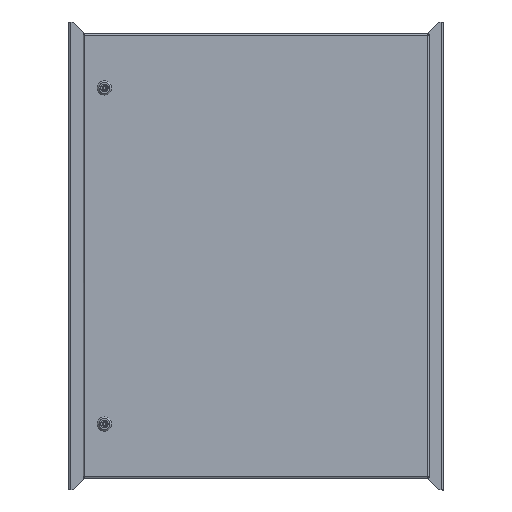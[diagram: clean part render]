
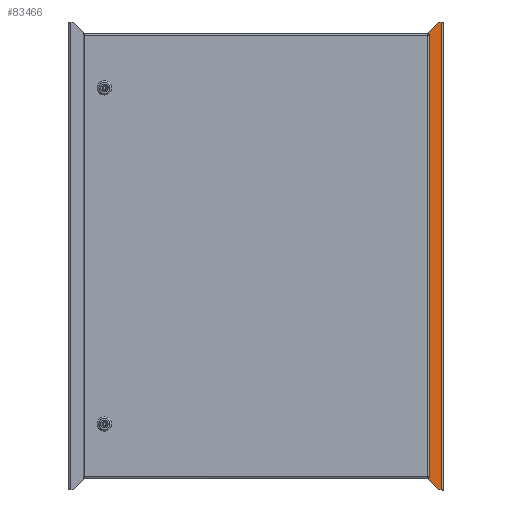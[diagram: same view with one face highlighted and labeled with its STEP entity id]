
A CAD part, top view. The second image highlights one B-rep face of the part: STEP entity #83466.
In plain terms, the highlighted planar face has unit normal (0, 0, 1).
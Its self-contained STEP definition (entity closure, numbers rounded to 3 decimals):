
#580 = DIRECTION ( 'NONE',  ( -1., 0., 0. ) ) ;
#1685 = CARTESIAN_POINT ( 'NONE',  ( 392.85, -495., -20.25 ) ) ;
#3238 = VERTEX_POINT ( 'NONE', #92371 ) ;
#6111 = CARTESIAN_POINT ( 'NONE',  ( 343.85, -460., -20.25 ) ) ;
#6783 = CARTESIAN_POINT ( 'NONE',  ( 381.37, -493.43, -20.25 ) ) ;
#7099 = LINE ( 'NONE', #103852, #95479 ) ;
#7160 = VERTEX_POINT ( 'NONE', #43723 ) ;
#7206 = VECTOR ( 'NONE', #19274, 1000. ) ;
#8638 = EDGE_CURVE ( 'NONE', #98851, #64447, #38806, .T. ) ;
#9064 = DIRECTION ( 'NONE',  ( 1., 0., 0. ) ) ;
#9477 = ORIENTED_EDGE ( 'NONE', *, *, #8638, .T. ) ;
#12365 = LINE ( 'NONE', #56563, #41065 ) ;
#13199 = DIRECTION ( 'NONE',  ( 1., 0., 0. ) ) ;
#15098 = CARTESIAN_POINT ( 'NONE',  ( 347.692, 465., -20.25 ) ) ;
#18391 = EDGE_CURVE ( 'NONE', #79956, #95455, #70865, .T. ) ;
#19108 = EDGE_CURVE ( 'NONE', #79956, #72816, #100880, .T. ) ;
#19274 = DIRECTION ( 'NONE',  ( -0.686, -0.728, 0. ) ) ;
#20293 = CARTESIAN_POINT ( 'NONE',  ( 343.85, 495., -20.25 ) ) ;
#20385 = VERTEX_POINT ( 'NONE', #41773 ) ;
#20511 = AXIS2_PLACEMENT_3D ( 'NONE', #57986, #58554, #9064 ) ;
#20861 = LINE ( 'NONE', #20293, #45418 ) ;
#21797 = EDGE_LOOP ( 'NONE', ( #33484, #77373, #81554, #101285, #84135, #9477, #88287, #62055, #54980, #97532, #57984, #39528 ) ) ;
#22344 = AXIS2_PLACEMENT_3D ( 'NONE', #52197, #35509, #26919 ) ;
#22494 = EDGE_CURVE ( 'NONE', #7160, #42019, #101547, .T. ) ;
#24789 = EDGE_CURVE ( 'NONE', #64447, #53356, #95960, .T. ) ;
#26919 = DIRECTION ( 'NONE',  ( 1., 0., 0. ) ) ;
#27214 = CARTESIAN_POINT ( 'NONE',  ( 351.33, -461.57, -20.25 ) ) ;
#28998 = CARTESIAN_POINT ( 'NONE',  ( -106.588, 24.101, -20.25 ) ) ;
#29129 = EDGE_CURVE ( 'NONE', #42019, #72816, #69876, .T. ) ;
#31672 = CARTESIAN_POINT ( 'NONE',  ( 339.85, 460., -20.25 ) ) ;
#33484 = ORIENTED_EDGE ( 'NONE', *, *, #18391, .F. ) ;
#34135 = VERTEX_POINT ( 'NONE', #6111 ) ;
#34535 = EDGE_CURVE ( 'NONE', #52773, #34135, #7099, .T. ) ;
#35509 = DIRECTION ( 'NONE',  ( 0., 0., 1. ) ) ;
#36420 = CARTESIAN_POINT ( 'NONE',  ( 349.85, 460., -20.25 ) ) ;
#38806 = CIRCLE ( 'NONE', #53534, 5. ) ;
#39528 = ORIENTED_EDGE ( 'NONE', *, *, #90119, .T. ) ;
#40707 = AXIS2_PLACEMENT_3D ( 'NONE', #15098, #107185, #91563 ) ;
#41065 = VECTOR ( 'NONE', #49042, 1000. ) ;
#41773 = CARTESIAN_POINT ( 'NONE',  ( 347.692, 460., -20.25 ) ) ;
#42019 = VERTEX_POINT ( 'NONE', #47443 ) ;
#42077 = AXIS2_PLACEMENT_3D ( 'NONE', #91615, #67045, #13199 ) ;
#43723 = CARTESIAN_POINT ( 'NONE',  ( 388.85, 495., -20.25 ) ) ;
#45083 = CARTESIAN_POINT ( 'NONE',  ( 347.692, -460., -20.25 ) ) ;
#45418 = VECTOR ( 'NONE', #90100, 1000. ) ;
#47443 = CARTESIAN_POINT ( 'NONE',  ( 388.85, -495., -20.25 ) ) ;
#49042 = DIRECTION ( 'NONE',  ( -1., 0., 0. ) ) ;
#49410 = CARTESIAN_POINT ( 'NONE',  ( 351.33, 461.57, -20.25 ) ) ;
#50707 = EDGE_CURVE ( 'NONE', #7160, #98851, #12365, .T. ) ;
#51219 = DIRECTION ( 'NONE',  ( -1., 0., 0. ) ) ;
#52197 = CARTESIAN_POINT ( 'NONE',  ( 392.85, 495., -20.25 ) ) ;
#52773 = VERTEX_POINT ( 'NONE', #45083 ) ;
#53356 = VERTEX_POINT ( 'NONE', #49410 ) ;
#53534 = AXIS2_PLACEMENT_3D ( 'NONE', #106018, #71683, #96310 ) ;
#54980 = ORIENTED_EDGE ( 'NONE', *, *, #67348, .T. ) ;
#56563 = CARTESIAN_POINT ( 'NONE',  ( 392.85, 495., -20.25 ) ) ;
#57960 = FACE_OUTER_BOUND ( 'NONE', #21797, .T. ) ;
#57984 = ORIENTED_EDGE ( 'NONE', *, *, #34535, .F. ) ;
#57986 = CARTESIAN_POINT ( 'NONE',  ( 385.008, -490., -20.25 ) ) ;
#58554 = DIRECTION ( 'NONE',  ( 0., 0., 1. ) ) ;
#59305 = CARTESIAN_POINT ( 'NONE',  ( 388.85, 495., -20.25 ) ) ;
#62055 = ORIENTED_EDGE ( 'NONE', *, *, #101665, .T. ) ;
#64447 = VERTEX_POINT ( 'NONE', #95444 ) ;
#64753 = CARTESIAN_POINT ( 'NONE',  ( 385.008, 495., -20.25 ) ) ;
#66673 = LINE ( 'NONE', #31672, #87962 ) ;
#67045 = DIRECTION ( 'NONE',  ( 0., 0., -1. ) ) ;
#67348 = EDGE_CURVE ( 'NONE', #20385, #3238, #66673, .T. ) ;
#68500 = VECTOR ( 'NONE', #580, 1000. ) ;
#69876 = LINE ( 'NONE', #1685, #68500 ) ;
#70865 = LINE ( 'NONE', #28998, #104905 ) ;
#71683 = DIRECTION ( 'NONE',  ( 0., 0., 1. ) ) ;
#72816 = VERTEX_POINT ( 'NONE', #95235 ) ;
#75253 = DIRECTION ( 'NONE',  ( -1., 0., 0. ) ) ;
#77373 = ORIENTED_EDGE ( 'NONE', *, *, #19108, .T. ) ;
#79956 = VERTEX_POINT ( 'NONE', #6783 ) ;
#81554 = ORIENTED_EDGE ( 'NONE', *, *, #29129, .F. ) ;
#83096 = VECTOR ( 'NONE', #111817, 1000. ) ;
#83466 = ADVANCED_FACE ( 'NONE', ( #57960 ), #93866, .T. ) ;
#84135 = ORIENTED_EDGE ( 'NONE', *, *, #50707, .T. ) ;
#84245 = CIRCLE ( 'NONE', #42077, 5. ) ;
#87962 = VECTOR ( 'NONE', #51219, 1000. ) ;
#88287 = ORIENTED_EDGE ( 'NONE', *, *, #24789, .T. ) ;
#90100 = DIRECTION ( 'NONE',  ( 0., -1., 0. ) ) ;
#90119 = EDGE_CURVE ( 'NONE', #52773, #95455, #84245, .T. ) ;
#91563 = DIRECTION ( 'NONE',  ( 1., 0., 0. ) ) ;
#91615 = CARTESIAN_POINT ( 'NONE',  ( 347.692, -465., -20.25 ) ) ;
#92371 = CARTESIAN_POINT ( 'NONE',  ( 343.85, 460., -20.25 ) ) ;
#93866 = PLANE ( 'NONE',  #22344 ) ;
#95235 = CARTESIAN_POINT ( 'NONE',  ( 385.008, -495., -20.25 ) ) ;
#95444 = CARTESIAN_POINT ( 'NONE',  ( 381.37, 493.43, -20.25 ) ) ;
#95455 = VERTEX_POINT ( 'NONE', #27214 ) ;
#95479 = VECTOR ( 'NONE', #75253, 1000. ) ;
#95564 = EDGE_CURVE ( 'NONE', #3238, #34135, #20861, .T. ) ;
#95960 = LINE ( 'NONE', #36420, #7206 ) ;
#96310 = DIRECTION ( 'NONE',  ( 1., 0., 0. ) ) ;
#97532 = ORIENTED_EDGE ( 'NONE', *, *, #95564, .T. ) ;
#98851 = VERTEX_POINT ( 'NONE', #64753 ) ;
#100880 = CIRCLE ( 'NONE', #20511, 5. ) ;
#101285 = ORIENTED_EDGE ( 'NONE', *, *, #22494, .F. ) ;
#101547 = LINE ( 'NONE', #59305, #83096 ) ;
#101665 = EDGE_CURVE ( 'NONE', #53356, #20385, #110102, .T. ) ;
#103852 = CARTESIAN_POINT ( 'NONE',  ( 363.35, -460., -20.25 ) ) ;
#104905 = VECTOR ( 'NONE', #105724, 1000. ) ;
#105724 = DIRECTION ( 'NONE',  ( -0.686, 0.728, 0. ) ) ;
#106018 = CARTESIAN_POINT ( 'NONE',  ( 385.008, 490., -20.25 ) ) ;
#107185 = DIRECTION ( 'NONE',  ( 0., 0., -1. ) ) ;
#110102 = CIRCLE ( 'NONE', #40707, 5. ) ;
#111817 = DIRECTION ( 'NONE',  ( 0., -1., 0. ) ) ;
